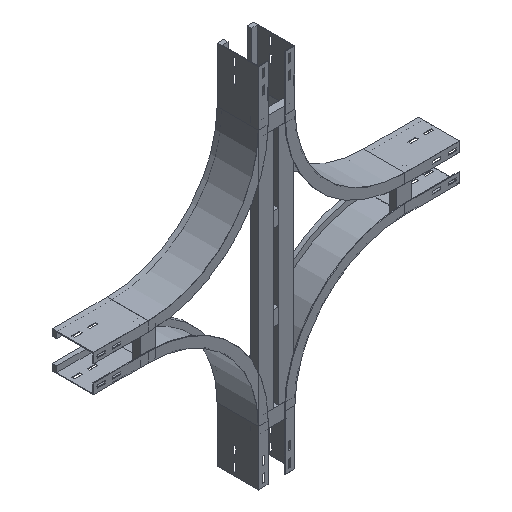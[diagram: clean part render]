
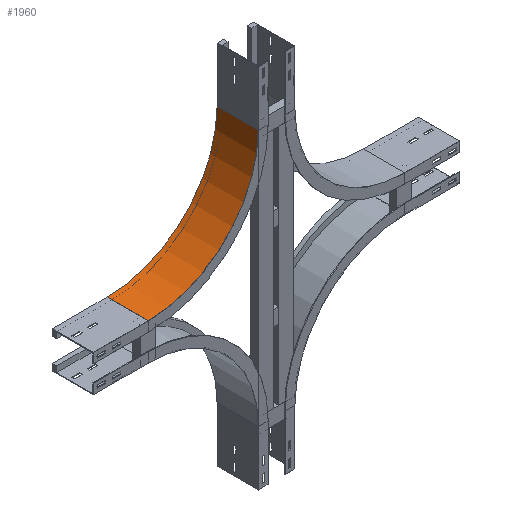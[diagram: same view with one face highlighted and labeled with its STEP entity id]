
A CAD part, isometric view. The second image highlights one B-rep face of the part: STEP entity #1960.
In plain terms, the highlighted cylindrical face has radius 300 mm (diameter 600 mm), a partial arc.
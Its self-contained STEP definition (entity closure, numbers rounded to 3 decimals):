
#46 = DIRECTION ( 'NONE',  ( 0., -1., 0. ) ) ;
#59 = LINE ( 'NONE', #1396, #675 ) ;
#281 = CARTESIAN_POINT ( 'NONE',  ( 300., 0., -150. ) ) ;
#294 = CARTESIAN_POINT ( 'NONE',  ( 300., 112.5, -150. ) ) ;
#352 = ORIENTED_EDGE ( 'NONE', *, *, #1280, .F. ) ;
#407 = EDGE_LOOP ( 'NONE', ( #352, #2283, #2448, #2088 ) ) ;
#513 = CIRCLE ( 'NONE', #2024, 300. ) ;
#563 = VERTEX_POINT ( 'NONE', #986 ) ;
#648 = FACE_OUTER_BOUND ( 'NONE', #407, .T. ) ;
#675 = VECTOR ( 'NONE', #2365, 1000. ) ;
#814 = DIRECTION ( 'NONE',  ( 0., 1., 0. ) ) ;
#986 = CARTESIAN_POINT ( 'NONE',  ( 300., 0., -450. ) ) ;
#1006 = CARTESIAN_POINT ( 'NONE',  ( 0., 112.5, -150. ) ) ;
#1045 = DIRECTION ( 'NONE',  ( -1., 0., 0. ) ) ;
#1058 = DIRECTION ( 'NONE',  ( -1., 0., 0. ) ) ;
#1126 = EDGE_CURVE ( 'NONE', #2178, #563, #513, .T. ) ;
#1151 = VERTEX_POINT ( 'NONE', #1006 ) ;
#1183 = AXIS2_PLACEMENT_3D ( 'NONE', #1751, #1368, #1196 ) ;
#1196 = DIRECTION ( 'NONE',  ( 0., 0., -1. ) ) ;
#1225 = CIRCLE ( 'NONE', #1421, 300. ) ;
#1268 = DIRECTION ( 'NONE',  ( 0., -1., 0. ) ) ;
#1280 = EDGE_CURVE ( 'NONE', #1151, #1295, #1225, .T. ) ;
#1295 = VERTEX_POINT ( 'NONE', #2413 ) ;
#1368 = DIRECTION ( 'NONE',  ( 0., -1., 0. ) ) ;
#1380 = CYLINDRICAL_SURFACE ( 'NONE', #1183, 300. ) ;
#1396 = CARTESIAN_POINT ( 'NONE',  ( 300., 0., -450. ) ) ;
#1419 = VECTOR ( 'NONE', #814, 1000. ) ;
#1421 = AXIS2_PLACEMENT_3D ( 'NONE', #294, #1268, #1058 ) ;
#1751 = CARTESIAN_POINT ( 'NONE',  ( 300., 0., -150. ) ) ;
#1949 = EDGE_CURVE ( 'NONE', #563, #1295, #59, .T. ) ;
#1960 = ADVANCED_FACE ( 'NONE', ( #648 ), #1380, .F. ) ;
#1966 = EDGE_CURVE ( 'NONE', #2178, #1151, #2143, .T. ) ;
#2024 = AXIS2_PLACEMENT_3D ( 'NONE', #281, #46, #1045 ) ;
#2088 = ORIENTED_EDGE ( 'NONE', *, *, #1949, .T. ) ;
#2143 = LINE ( 'NONE', #2170, #1419 ) ;
#2170 = CARTESIAN_POINT ( 'NONE',  ( 0., 0., -150. ) ) ;
#2178 = VERTEX_POINT ( 'NONE', #2414 ) ;
#2283 = ORIENTED_EDGE ( 'NONE', *, *, #1966, .F. ) ;
#2365 = DIRECTION ( 'NONE',  ( 0., 1., 0. ) ) ;
#2413 = CARTESIAN_POINT ( 'NONE',  ( 300., 112.5, -450. ) ) ;
#2414 = CARTESIAN_POINT ( 'NONE',  ( 0., 0., -150. ) ) ;
#2448 = ORIENTED_EDGE ( 'NONE', *, *, #1126, .T. ) ;
